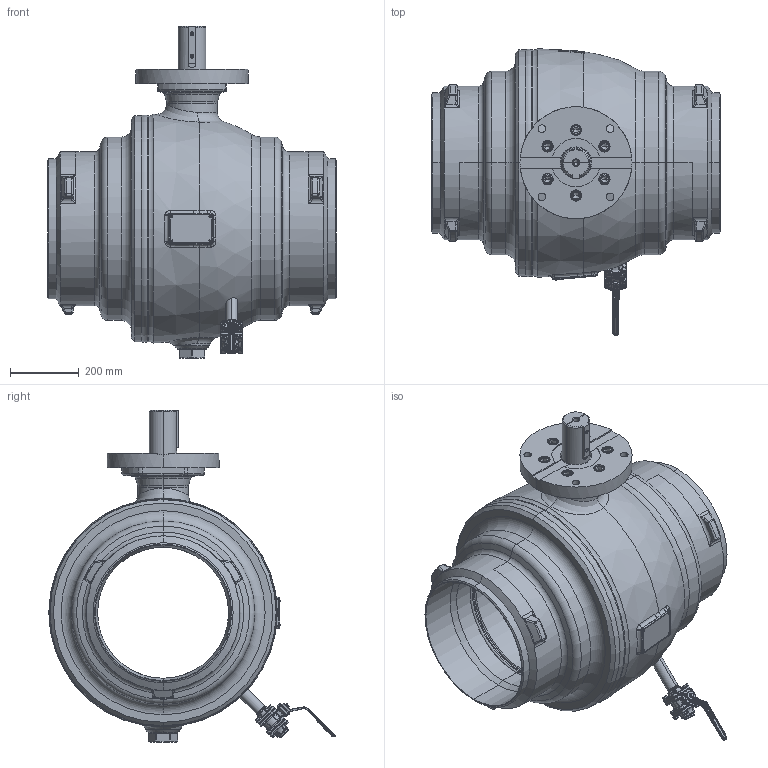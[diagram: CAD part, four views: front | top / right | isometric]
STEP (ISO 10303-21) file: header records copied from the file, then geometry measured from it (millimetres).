
FILE_DESCRIPTION((''),'2;1');
FILE_NAME('KHSVI_400_FR_WE_ENTL','2026-01-27T14:24:27',('schwaba'),('KLINGER'),'CREO PARAMETRIC BY PTC INC, 2023014','CREO PARAMETRIC BY PTC INC, 2023014','');
FILE_SCHEMA(('CONFIG_CONTROL_DESIGN'));
Products named in the file (1): KHSVI_400_FR_WE_ENTL
Bounding box: 838 x 830.97 x 963 mm (x, y, z)
Volume: 69553474.4 mm3; surface area: 6222322.9 mm2
Topology: 2 solids, 6 shells, 3172 faces, 7615 edges, 4555 vertices
Faces by surface type: plane 962, cylinder 801, bspline 492, torus 485, cone 358, sphere 53, revolution 16, extrusion 5
Entity records: 192422 total; most frequent: CARTESIAN_POINT 122654, ORIENTED_EDGE 15150, DIRECTION 14060, EDGE_CURVE 7575, AXIS2_PLACEMENT_3D 5923, VERTEX_POINT 4555, EDGE_LOOP 3386, CIRCLE 3261
